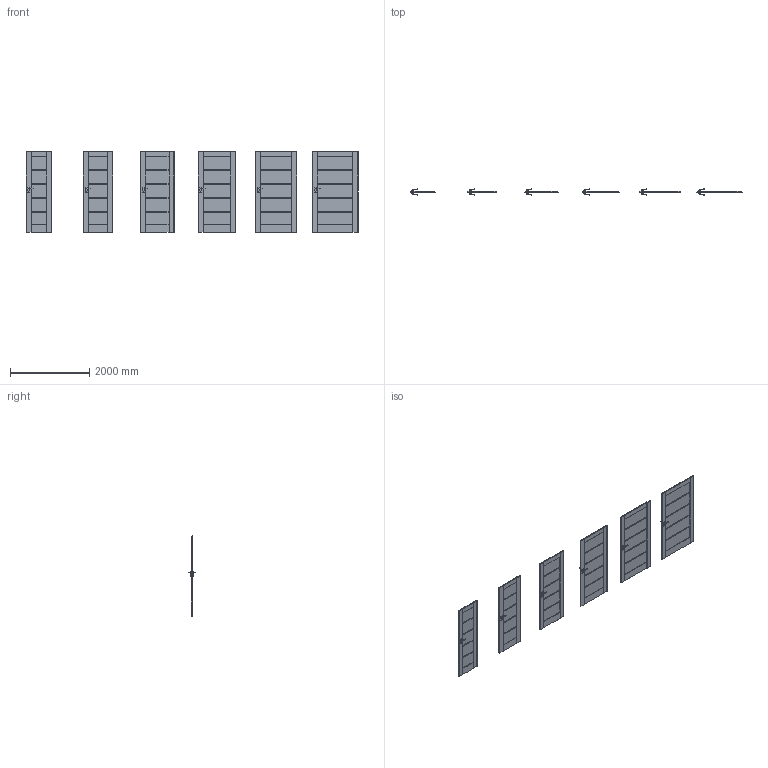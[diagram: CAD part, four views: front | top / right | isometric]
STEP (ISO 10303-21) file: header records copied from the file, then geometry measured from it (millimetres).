
FILE_DESCRIPTION(/* description */ (''),/* implementation_level */ '2;1');
FILE_NAME(/* name */ '049780_A_2-Skrzydło GRANDE model G_ polska norma _PN__ przylgowe..stp',/* time_stamp */ '2024-03-18T13:22:03+01:00',/* author */ (''),/* organization */ (''),/* preprocessor_version */ 'ST-DEVELOPER v16',/* originating_system */ 'SIEMENS PLM Software NX 11.0',/* authorisation */ '');
FILE_SCHEMA (('AUTOMOTIVE_DESIGN { 1 0 10303 214 3 1 1 1 }'));
Length unit declared in the file: millimetre
Products named in the file (1): bkni455C0FDCjawm
Bounding box: 8394 x 153.27 x 2030 mm (x, y, z)
Volume: 245764625.5 mm3; surface area: 24225377.9 mm2
Topology: 30 solids, 30 shells, 1476 faces, 3702 edges, 2166 vertices
Faces by surface type: plane 834, cylinder 282, bspline 192, sphere 168
Entity records: 50046 total; most frequent: CARTESIAN_POINT 15601, ORIENTED_EDGE 7068, DIRECTION 6494, EDGE_CURVE 3534, LINE 2424, VECTOR 2424, VERTEX_POINT 2166, AXIS2_PLACEMENT_3D 2035
